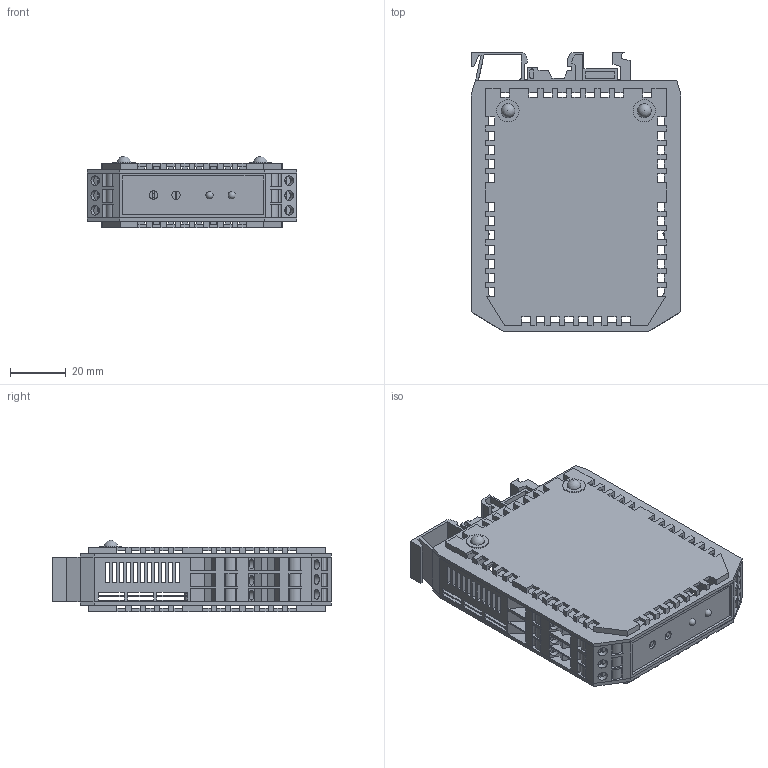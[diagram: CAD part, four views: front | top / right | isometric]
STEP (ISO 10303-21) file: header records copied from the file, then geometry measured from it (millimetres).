
FILE_DESCRIPTION(/* description */ (''),/* implementation_level */ '2;1');
FILE_NAME(/* name */ 'CAL45_.step',/* time_stamp */ '2023-09-22T14:14:09+02:00',/* author */ (''),/* organization */ (''),/* preprocessor_version */ 'ST-DEVELOPER v20',/* originating_system */ 'Autodesk Translation Framework v12.14.0.127',/* authorisation */ '');
FILE_SCHEMA (('AUTOMOTIVE_DESIGN { 1 0 10303 214 3 1 1 }'));
Length unit declared in the file: millimetre
Products named in the file (6): CAL45; Composant1; cal25ig v3; DSL1-35-HV-NUC OVERTURE FINE v1; demi-cal25ig v1; demi-cal25ig v1 (1)
Assembly tree (17 placements, depth 2):
  CAL45
    Composant1
    DSL1-35-HV-NUC OVERTURE FINE v1  x2
    cal25ig v3  x12
    demi-cal25ig v1
    demi-cal25ig v1 (1)
Bounding box: 75.09 x 100.16 x 25.5 mm (x, y, z)
Volume: 37069.4 mm3; surface area: 52889.3 mm2
Topology: 21 solids, 21 shells, 1293 faces, 4145 edges, 2763 vertices
Faces by surface type: plane 816, cylinder 407, bspline 64, sphere 6
Full cylindrical faces by diameter (mm): 1.478 x36, 1.933 x72, 3 x20, 3.5 x26, 8 x2
Entity records: 28778 total; most frequent: CARTESIAN_POINT 8996, ORIENTED_EDGE 4410, DIRECTION 3575, EDGE_CURVE 2205, LINE 1881, VECTOR 1881, VERTEX_POINT 1475, AXIS2_PLACEMENT_3D 847
